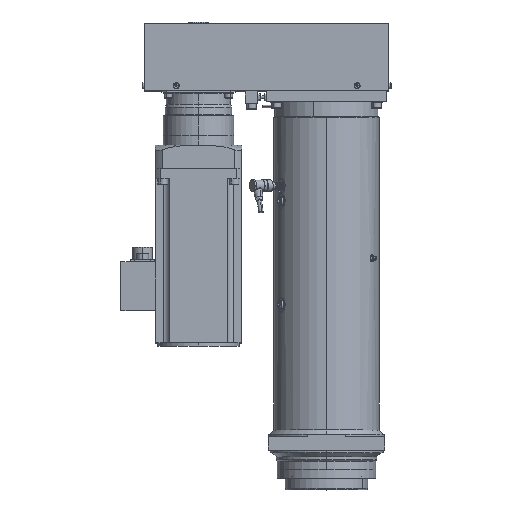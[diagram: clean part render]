
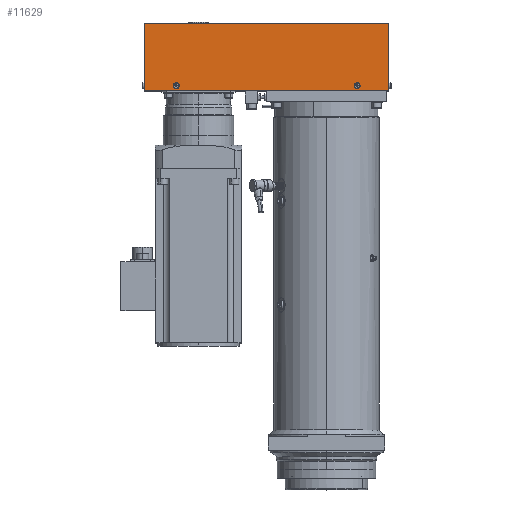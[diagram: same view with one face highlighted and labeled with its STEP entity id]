
A CAD part, top view. The second image highlights one B-rep face of the part: STEP entity #11629.
In plain terms, the highlighted planar face has unit normal (0, 0, 1).
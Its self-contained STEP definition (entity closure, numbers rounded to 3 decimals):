
#895 = CARTESIAN_POINT ( 'NONE',  ( -199.405, 460.934, 192.364 ) ) ;
#1198 = ORIENTED_EDGE ( 'NONE', *, *, #10779, .F. ) ;
#1585 = ORIENTED_EDGE ( 'NONE', *, *, #7847, .T. ) ;
#2664 = CARTESIAN_POINT ( 'NONE',  ( -251.155, 562.934, 192.364 ) ) ;
#3981 = VERTEX_POINT ( 'NONE', #12482 ) ;
#4539 = VERTEX_POINT ( 'NONE', #45751 ) ;
#7029 = AXIS2_PLACEMENT_3D ( 'NONE', #16891, #30438, #43828 ) ;
#7390 = CARTESIAN_POINT ( 'NONE',  ( 93.295, 460.934, 192.364 ) ) ;
#7847 = EDGE_CURVE ( 'NONE', #35657, #31608, #34310, .T. ) ;
#8099 = DIRECTION ( 'NONE',  ( 0., -1., 0. ) ) ;
#8434 = AXIS2_PLACEMENT_3D ( 'NONE', #895, #18710, #53616 ) ;
#10779 = EDGE_CURVE ( 'NONE', #20476, #31608, #19067, .T. ) ;
#11211 = DIRECTION ( 'NONE',  ( 0., 0., -1. ) ) ;
#11629 = ADVANCED_FACE ( 'NONE', ( #18266, #54336, #41092 ), #41810, .F. ) ;
#12482 = CARTESIAN_POINT ( 'NONE',  ( -196.105, 460.934, 192.364 ) ) ;
#12779 = AXIS2_PLACEMENT_3D ( 'NONE', #16065, #17024, #47292 ) ;
#15993 = EDGE_LOOP ( 'NONE', ( #1585, #1198, #50685, #47751 ) ) ;
#16065 = CARTESIAN_POINT ( 'NONE',  ( 96.595, 460.934, 192.364 ) ) ;
#16891 = CARTESIAN_POINT ( 'NONE',  ( -199.405, 460.934, 192.364 ) ) ;
#17024 = DIRECTION ( 'NONE',  ( 0., 0., 1. ) ) ;
#18266 = FACE_BOUND ( 'NONE', #24681, .T. ) ;
#18710 = DIRECTION ( 'NONE',  ( 0., 0., 1. ) ) ;
#19067 = LINE ( 'NONE', #24984, #45445 ) ;
#20476 = VERTEX_POINT ( 'NONE', #44241 ) ;
#21929 = AXIS2_PLACEMENT_3D ( 'NONE', #50975, #11211, #24394 ) ;
#22561 = AXIS2_PLACEMENT_3D ( 'NONE', #23453, #41809, #36588 ) ;
#23453 = CARTESIAN_POINT ( 'NONE',  ( 96.595, 460.934, 192.364 ) ) ;
#23712 = EDGE_CURVE ( 'NONE', #4539, #3981, #48512, .T. ) ;
#24394 = DIRECTION ( 'NONE',  ( -1., 0., 0. ) ) ;
#24569 = CARTESIAN_POINT ( 'NONE',  ( -251.155, 562.934, 192.364 ) ) ;
#24626 = EDGE_CURVE ( 'NONE', #56158, #20476, #57553, .T. ) ;
#24681 = EDGE_LOOP ( 'NONE', ( #50317, #52679 ) ) ;
#24984 = CARTESIAN_POINT ( 'NONE',  ( 148.345, 562.934, 192.364 ) ) ;
#25382 = CIRCLE ( 'NONE', #8434, 3.3 ) ;
#25659 = EDGE_CURVE ( 'NONE', #56158, #35657, #38063, .T. ) ;
#25757 = DIRECTION ( 'NONE',  ( 1., 0., 0. ) ) ;
#25861 = CARTESIAN_POINT ( 'NONE',  ( -251.155, 562.934, 192.364 ) ) ;
#28290 = EDGE_CURVE ( 'NONE', #35828, #30164, #39196, .T. ) ;
#28738 = VECTOR ( 'NONE', #25757, 1000. ) ;
#29314 = DIRECTION ( 'NONE',  ( 0., -1., 0. ) ) ;
#30164 = VERTEX_POINT ( 'NONE', #39799 ) ;
#30438 = DIRECTION ( 'NONE',  ( 0., 0., 1. ) ) ;
#31608 = VERTEX_POINT ( 'NONE', #54203 ) ;
#32508 = ORIENTED_EDGE ( 'NONE', *, *, #39288, .F. ) ;
#32787 = VECTOR ( 'NONE', #29314, 1000. ) ;
#34310 = LINE ( 'NONE', #52357, #28738 ) ;
#35657 = VERTEX_POINT ( 'NONE', #51557 ) ;
#35828 = VERTEX_POINT ( 'NONE', #7390 ) ;
#36588 = DIRECTION ( 'NONE',  ( 1., 0., 0. ) ) ;
#38063 = LINE ( 'NONE', #2664, #32787 ) ;
#39196 = CIRCLE ( 'NONE', #12779, 3.3 ) ;
#39288 = EDGE_CURVE ( 'NONE', #3981, #4539, #25382, .T. ) ;
#39799 = CARTESIAN_POINT ( 'NONE',  ( 99.895, 460.934, 192.364 ) ) ;
#41092 = FACE_OUTER_BOUND ( 'NONE', #15993, .T. ) ;
#41809 = DIRECTION ( 'NONE',  ( 0., 0., 1. ) ) ;
#41810 = PLANE ( 'NONE',  #21929 ) ;
#42617 = ORIENTED_EDGE ( 'NONE', *, *, #23712, .F. ) ;
#43828 = DIRECTION ( 'NONE',  ( 1., 0., 0. ) ) ;
#44241 = CARTESIAN_POINT ( 'NONE',  ( 148.345, 562.934, 192.364 ) ) ;
#44283 = DIRECTION ( 'NONE',  ( 1., 0., 0. ) ) ;
#44326 = CIRCLE ( 'NONE', #22561, 3.3 ) ;
#45445 = VECTOR ( 'NONE', #8099, 1000. ) ;
#45751 = CARTESIAN_POINT ( 'NONE',  ( -202.705, 460.934, 192.364 ) ) ;
#47292 = DIRECTION ( 'NONE',  ( 1., 0., 0. ) ) ;
#47751 = ORIENTED_EDGE ( 'NONE', *, *, #25659, .T. ) ;
#48512 = CIRCLE ( 'NONE', #7029, 3.3 ) ;
#48675 = EDGE_CURVE ( 'NONE', #30164, #35828, #44326, .T. ) ;
#50317 = ORIENTED_EDGE ( 'NONE', *, *, #48675, .F. ) ;
#50685 = ORIENTED_EDGE ( 'NONE', *, *, #24626, .F. ) ;
#50975 = CARTESIAN_POINT ( 'NONE',  ( -251.155, 562.934, 192.364 ) ) ;
#51557 = CARTESIAN_POINT ( 'NONE',  ( -251.155, 452.434, 192.364 ) ) ;
#52357 = CARTESIAN_POINT ( 'NONE',  ( -251.155, 452.434, 192.364 ) ) ;
#52679 = ORIENTED_EDGE ( 'NONE', *, *, #28290, .F. ) ;
#53616 = DIRECTION ( 'NONE',  ( 1., 0., 0. ) ) ;
#54203 = CARTESIAN_POINT ( 'NONE',  ( 148.345, 452.434, 192.364 ) ) ;
#54336 = FACE_BOUND ( 'NONE', #55093, .T. ) ;
#54752 = VECTOR ( 'NONE', #44283, 1000. ) ;
#55093 = EDGE_LOOP ( 'NONE', ( #32508, #42617 ) ) ;
#56158 = VERTEX_POINT ( 'NONE', #24569 ) ;
#57553 = LINE ( 'NONE', #25861, #54752 ) ;
